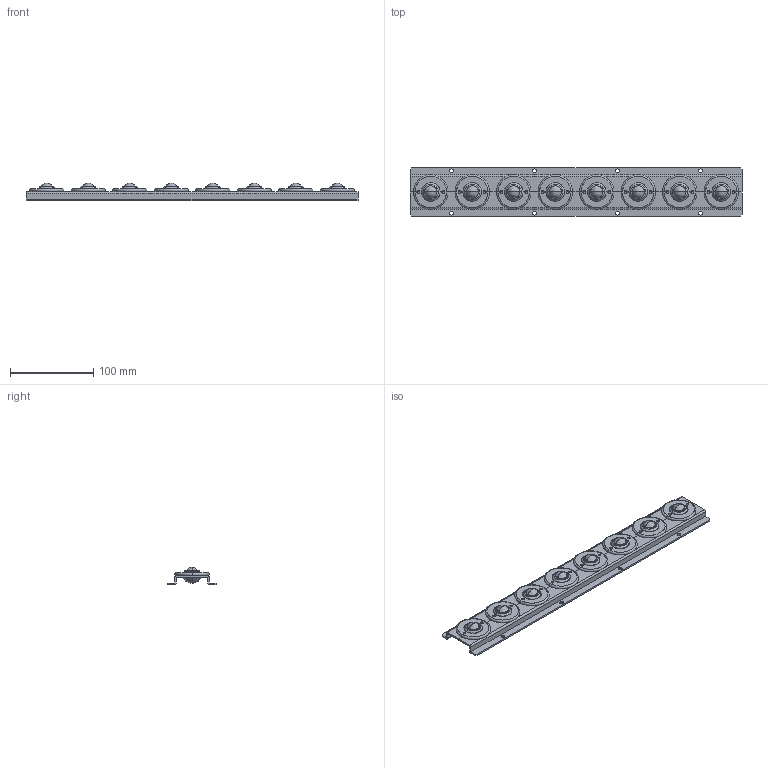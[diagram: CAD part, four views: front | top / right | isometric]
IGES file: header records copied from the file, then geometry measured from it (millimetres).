
Global section: file name: E:\UnigraphicsGraphicData\MISUMI_PRESS-PARTS\IGES\3d_goro-8_03801_r00.igs; native system: NX V5.0; preprocessor: UGS NX IGES V5.0; author: MISUMI; date: 20110105.160734; units: millimetre
Bounding box: 400 x 59 x 21 mm (x, y, z)
Surface area: 70044.9 mm2 (no closed solid volume)
Topology: 0 solids, 0 shells, 216 faces, 1708 edges, 1676 vertices
Faces by surface type: bspline 216
